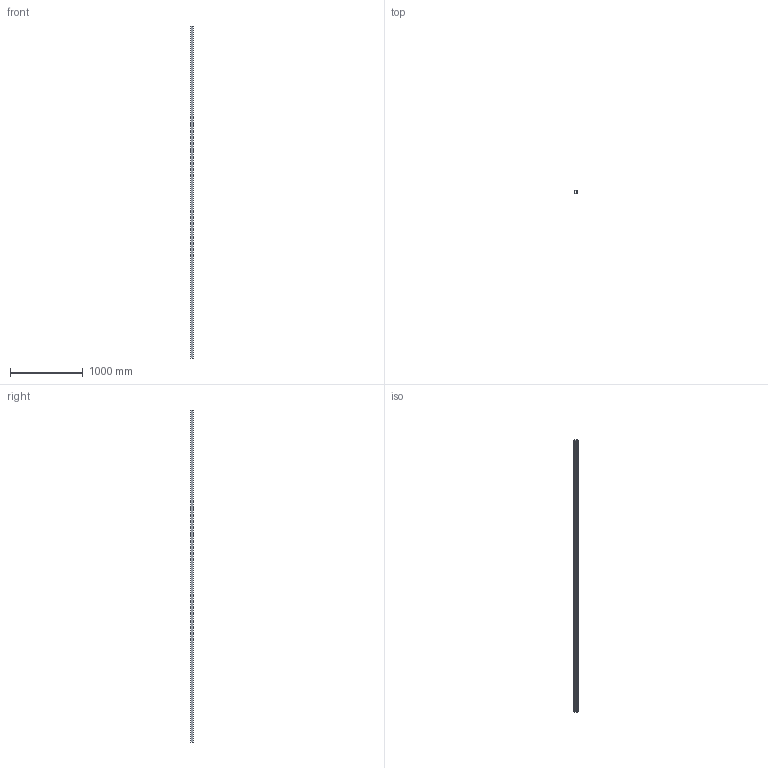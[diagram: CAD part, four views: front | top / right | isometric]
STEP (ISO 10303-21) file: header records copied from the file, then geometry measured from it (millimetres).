
FILE_DESCRIPTION(('Open CASCADE Model'),'2;1');
FILE_NAME('Open CASCADE Shape Model','2026-10-19T10:09:28',('Author'),( 'Open CASCADE'),'Open CASCADE STEP processor 8.0','Open CASCADE 8.0' ,'Unknown');
FILE_SCHEMA(('AUTOMOTIVE_DESIGN { 1 0 10303 214 1 1 1 1 }'));
Length unit declared in the file: millimetre
Products named in the file (1): AC_SHS40x40x3_L4568118 194
Bounding box: 40 x 40 x 4568.12 mm (x, y, z)
Volume: 2028244.4 mm3; surface area: 1353050.9 mm2
Topology: 1 solids, 1 shells, 10 faces, 24 edges, 16 vertices
Faces by surface type: plane 10
Entity records: 614 total; most frequent: CARTESIAN_POINT 99, DIRECTION 94, LINE 72, VECTOR 72, ORIENTED_EDGE 48, PCURVE 48, DEFINITIONAL_REPRESENTATION 48, EDGE_CURVE 24
